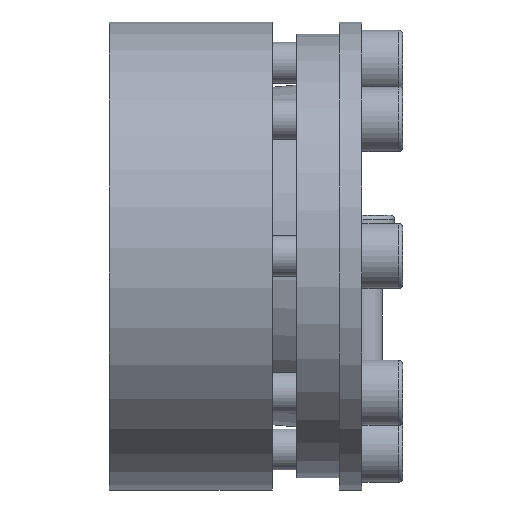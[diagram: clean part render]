
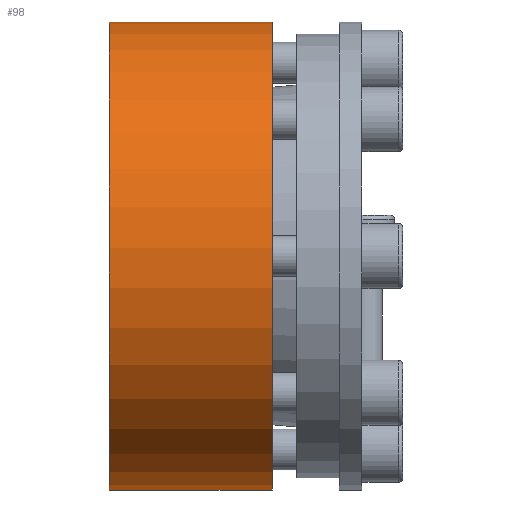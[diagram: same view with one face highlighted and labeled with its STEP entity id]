
A CAD part, left-side view. The second image highlights one B-rep face of the part: STEP entity #98.
In plain terms, the highlighted cylindrical face has radius 57.5 mm (diameter 115 mm), a partial arc.
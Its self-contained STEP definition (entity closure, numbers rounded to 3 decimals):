
#98 = ADVANCED_FACE( '', ( #225 ), #226, .T. );
#225 = FACE_OUTER_BOUND( '', #393, .T. );
#226 = CYLINDRICAL_SURFACE( '', #394, 57.5 );
#393 = EDGE_LOOP( '', ( #636, #637, #638, #639 ) );
#394 = AXIS2_PLACEMENT_3D( '', #640, #641, #642 );
#636 = ORIENTED_EDGE( '', *, *, #899, .F. );
#637 = ORIENTED_EDGE( '', *, *, #872, .T. );
#638 = ORIENTED_EDGE( '', *, *, #902, .T. );
#639 = ORIENTED_EDGE( '', *, *, #903, .T. );
#640 = CARTESIAN_POINT( '', ( 0., -60., 0. ) );
#641 = DIRECTION( '', ( 0., 1., 0. ) );
#642 = DIRECTION( '', ( 0., 0., -1. ) );
#872 = EDGE_CURVE( '', #1057, #1055, #1058, .F. );
#899 = EDGE_CURVE( '', #1057, #1102, #1103, .T. );
#902 = EDGE_CURVE( '', #1055, #1106, #1107, .T. );
#903 = EDGE_CURVE( '', #1106, #1102, #1108, .T. );
#1055 = VERTEX_POINT( '', #1365 );
#1057 = VERTEX_POINT( '', #1368 );
#1058 = LINE( '', #1369, #1370 );
#1102 = VERTEX_POINT( '', #1423 );
#1103 = CIRCLE( '', #1424, 57.5 );
#1106 = VERTEX_POINT( '', #1428 );
#1107 = CIRCLE( '', #1429, 57.5 );
#1108 = LINE( '', #1430, #1431 );
#1365 = CARTESIAN_POINT( '', ( 20.937, 62., 53.553 ) );
#1368 = CARTESIAN_POINT( '', ( 20.937, 22., 53.553 ) );
#1369 = CARTESIAN_POINT( '', ( 20.937, -60., 53.553 ) );
#1370 = VECTOR( '', #1580, 1000. );
#1423 = CARTESIAN_POINT( '', ( 23.062, 22., 52.672 ) );
#1424 = AXIS2_PLACEMENT_3D( '', #1626, #1627, #1628 );
#1428 = CARTESIAN_POINT( '', ( 23.062, 62., 52.672 ) );
#1429 = AXIS2_PLACEMENT_3D( '', #1630, #1631, #1632 );
#1430 = CARTESIAN_POINT( '', ( 23.062, -60., 52.672 ) );
#1431 = VECTOR( '', #1633, 1000. );
#1580 = DIRECTION( '', ( 0., -1., 0. ) );
#1626 = CARTESIAN_POINT( '', ( 0., 22., 0. ) );
#1627 = DIRECTION( '', ( 0., -1., 0. ) );
#1628 = DIRECTION( '', ( 0., 0., -1. ) );
#1630 = CARTESIAN_POINT( '', ( 0., 62., 0. ) );
#1631 = DIRECTION( '', ( 0., -1., 0. ) );
#1632 = DIRECTION( '', ( 0., 0., -1. ) );
#1633 = DIRECTION( '', ( 0., -1., 0. ) );
